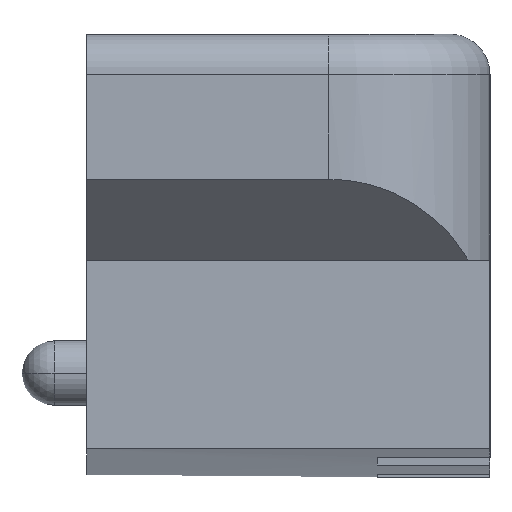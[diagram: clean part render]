
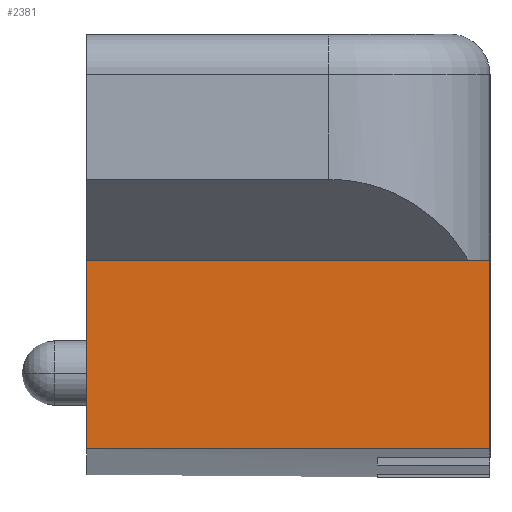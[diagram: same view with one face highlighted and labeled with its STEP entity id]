
A CAD part, left-side view. The second image highlights one B-rep face of the part: STEP entity #2381.
In plain terms, the highlighted planar face has unit normal (-1, 0, 0).
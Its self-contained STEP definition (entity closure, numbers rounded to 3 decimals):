
#35=DIRECTION('',(0.,0.,-1.));
#36=VECTOR('',#35,2.339);
#37=CARTESIAN_POINT('',(-6.,6.,-48.653));
#38=LINE('',#37,#36);
#374=DIRECTION('',(0.,-1.,0.));
#375=VECTOR('',#374,5.);
#376=CARTESIAN_POINT('',(-6.,6.,-50.991));
#377=LINE('',#376,#375);
#840=DIRECTION('',(0.,0.,-1.));
#841=VECTOR('',#840,2.339);
#842=CARTESIAN_POINT('',(-6.,1.,-48.653));
#843=LINE('',#842,#841);
#844=DIRECTION('',(0.,-1.,0.));
#845=VECTOR('',#844,5.);
#846=CARTESIAN_POINT('',(-6.,6.,-48.653));
#847=LINE('',#846,#845);
#982=CARTESIAN_POINT('',(-6.,6.,-48.653));
#983=VERTEX_POINT('',#982);
#984=CARTESIAN_POINT('',(-6.,6.,-50.991));
#985=VERTEX_POINT('',#984);
#1019=CARTESIAN_POINT('',(-6.,1.,-48.653));
#1021=VERTEX_POINT('',#1019);
#1032=CARTESIAN_POINT('',(-6.,1.,-50.991));
#1033=VERTEX_POINT('',#1032);
#2370=CARTESIAN_POINT('',(-6.,0.,-51.653));
#2371=DIRECTION('',(-1.,0.,0.));
#2372=DIRECTION('',(0.,0.,1.));
#2373=AXIS2_PLACEMENT_3D('',#2370,#2371,#2372);
#2374=PLANE('',#2373);
#2375=ORIENTED_EDGE('',*,*,#1557,.T.);
#2376=ORIENTED_EDGE('',*,*,#1792,.F.);
#2377=ORIENTED_EDGE('',*,*,#1280,.F.);
#2378=ORIENTED_EDGE('',*,*,#2355,.T.);
#2379=EDGE_LOOP('',(#2375,#2376,#2377,#2378));
#2380=FACE_OUTER_BOUND('',#2379,.F.);
#1280=EDGE_CURVE('',#983,#985,#38,.T.);
#1557=EDGE_CURVE('',#1021,#1033,#843,.T.);
#1792=EDGE_CURVE('',#985,#1033,#377,.T.);
#2355=EDGE_CURVE('',#983,#1021,#847,.T.);
#2381=ADVANCED_FACE('',(#2380),#2374,.T.);
